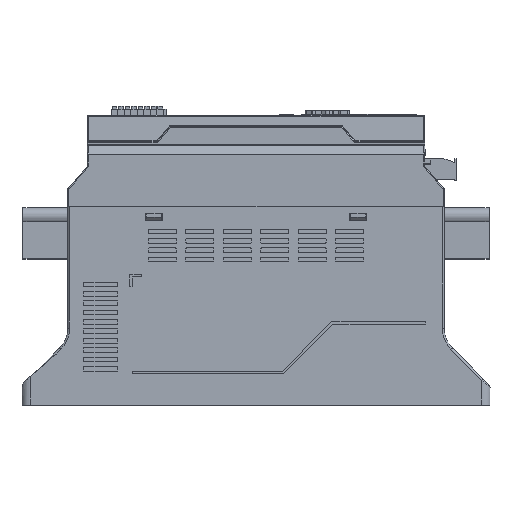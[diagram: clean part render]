
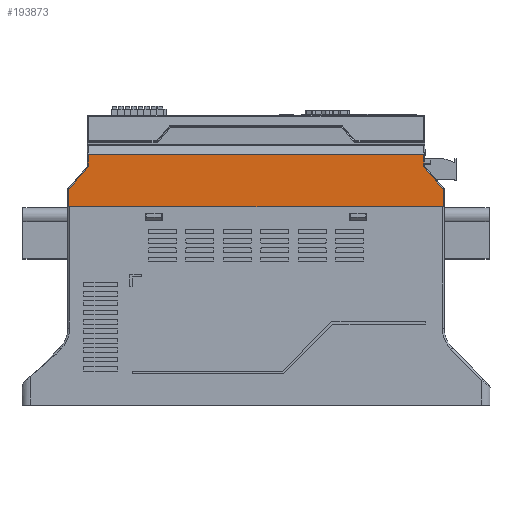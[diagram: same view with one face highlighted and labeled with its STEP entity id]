
A CAD part, top view. The second image highlights one B-rep face of the part: STEP entity #193873.
In plain terms, the highlighted planar face has unit normal (0, 0, 1).
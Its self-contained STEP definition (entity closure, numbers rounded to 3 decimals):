
#151010=CARTESIAN_POINT('',(-90.61,-3.814,105.));
#151011=DIRECTION('',(0.,0.,-1.));
#151012=DIRECTION('',(1.,0.,0.));
#151013=AXIS2_PLACEMENT_3D('',#151010,#151011,#151012);
#164125=DIRECTION('',(0.655,0.756,0.));
#164126=VECTOR('',#164125,15.5);
#164127=CARTESIAN_POINT('',(-100.,-16.186,105.));
#164128=LINE('',#164127,#164126);
#164132=DIRECTION('',(0.,1.,0.));
#164133=VECTOR('',#164132,6.107);
#164134=CARTESIAN_POINT('',(-89.61,-3.814,105.));
#164135=LINE('',#164134,#164133);
#164139=DIRECTION('',(-1.,0.,0.));
#164140=VECTOR('',#164139,179.22);
#164141=CARTESIAN_POINT('',(89.61,2.293,105.));
#164142=LINE('',#164141,#164140);
#164146=DIRECTION('',(0.,-1.,0.));
#164147=VECTOR('',#164146,6.107);
#164148=CARTESIAN_POINT('',(89.61,2.293,105.));
#164149=LINE('',#164148,#164147);
#164153=CARTESIAN_POINT('',(90.61,-3.814,105.));
#164154=DIRECTION('',(0.,0.,-1.));
#164155=DIRECTION('',(-0.756,-0.655,0.));
#164156=AXIS2_PLACEMENT_3D('',#164153,#164154,#164155);
#164161=DIRECTION('',(0.655,-0.756,0.));
#164162=VECTOR('',#164161,15.5);
#164163=CARTESIAN_POINT('',(89.854,-4.468,105.));
#164164=LINE('',#164163,#164162);
#164168=DIRECTION('',(0.,-1.,0.));
#164169=VECTOR('',#164168,9.314);
#164170=CARTESIAN_POINT('',(100.,-16.186,105.));
#164171=LINE('',#164170,#164169);
#164175=DIRECTION('',(-1.,0.,0.));
#164176=VECTOR('',#164175,200.);
#164177=CARTESIAN_POINT('',(100.,-25.5,105.));
#164178=LINE('',#164177,#164176);
#164182=DIRECTION('',(0.,-1.,0.));
#164183=VECTOR('',#164182,9.314);
#164184=CARTESIAN_POINT('',(-100.,-16.186,105.));
#164185=LINE('',#164184,#164183);
#171558=CARTESIAN_POINT('',(-100.,-25.5,105.));
#171560=VERTEX_POINT('',#171558);
#171564=CARTESIAN_POINT('',(-100.,-16.186,105.));
#171565=VERTEX_POINT('',#171564);
#171575=CARTESIAN_POINT('',(100.,-25.5,105.));
#171577=VERTEX_POINT('',#171575);
#171578=CARTESIAN_POINT('',(100.,-16.186,105.));
#171579=VERTEX_POINT('',#171578);
#171584=CARTESIAN_POINT('',(89.854,-4.468,105.));
#171585=VERTEX_POINT('',#171584);
#171588=CARTESIAN_POINT('',(89.61,2.293,105.));
#171589=CARTESIAN_POINT('',(89.61,-3.814,105.));
#171590=VERTEX_POINT('',#171588);
#171591=VERTEX_POINT('',#171589);
#171600=CARTESIAN_POINT('',(-89.61,2.293,105.));
#171601=VERTEX_POINT('',#171600);
#171654=CARTESIAN_POINT('',(-89.61,-3.814,105.));
#171656=VERTEX_POINT('',#171654);
#171658=CARTESIAN_POINT('',(-89.854,-4.468,105.));
#171660=VERTEX_POINT('',#171658);
#193850=CARTESIAN_POINT('',(0.,0.,105.));
#193851=DIRECTION('',(0.,0.,1.));
#193852=DIRECTION('',(1.,0.,0.));
#193853=AXIS2_PLACEMENT_3D('',#193850,#193851,#193852);
#193854=PLANE('',#193853);
#193856=ORIENTED_EDGE('',*,*,#193855,.T.);
#193857=ORIENTED_EDGE('',*,*,#182442,.F.);
#193858=ORIENTED_EDGE('',*,*,#182459,.T.);
#193859=ORIENTED_EDGE('',*,*,#193844,.F.);
#193861=ORIENTED_EDGE('',*,*,#193860,.T.);
#193863=ORIENTED_EDGE('',*,*,#193862,.F.);
#193865=ORIENTED_EDGE('',*,*,#193864,.T.);
#193867=ORIENTED_EDGE('',*,*,#193866,.T.);
#193868=ORIENTED_EDGE('',*,*,#173435,.T.);
#193870=ORIENTED_EDGE('',*,*,#193869,.F.);
#193871=EDGE_LOOP('',(#193856,#193857,#193858,#193859,#193861,#193863,#193865,
#193867,#193868,#193870));
#193872=FACE_OUTER_BOUND('',#193871,.F.);
#151014=CIRCLE('',#151013,1.);
#164157=CIRCLE('',#164156,1.);
#173435=EDGE_CURVE('',#171577,#171560,#164178,.T.);
#182442=EDGE_CURVE('',#171656,#171660,#151014,.T.);
#182459=EDGE_CURVE('',#171656,#171601,#164135,.T.);
#193844=EDGE_CURVE('',#171590,#171601,#164142,.T.);
#193855=EDGE_CURVE('',#171565,#171660,#164128,.T.);
#193860=EDGE_CURVE('',#171590,#171591,#164149,.T.);
#193862=EDGE_CURVE('',#171585,#171591,#164157,.T.);
#193864=EDGE_CURVE('',#171585,#171579,#164164,.T.);
#193866=EDGE_CURVE('',#171579,#171577,#164171,.T.);
#193869=EDGE_CURVE('',#171565,#171560,#164185,.T.);
#193873=ADVANCED_FACE('',(#193872),#193854,.T.);
